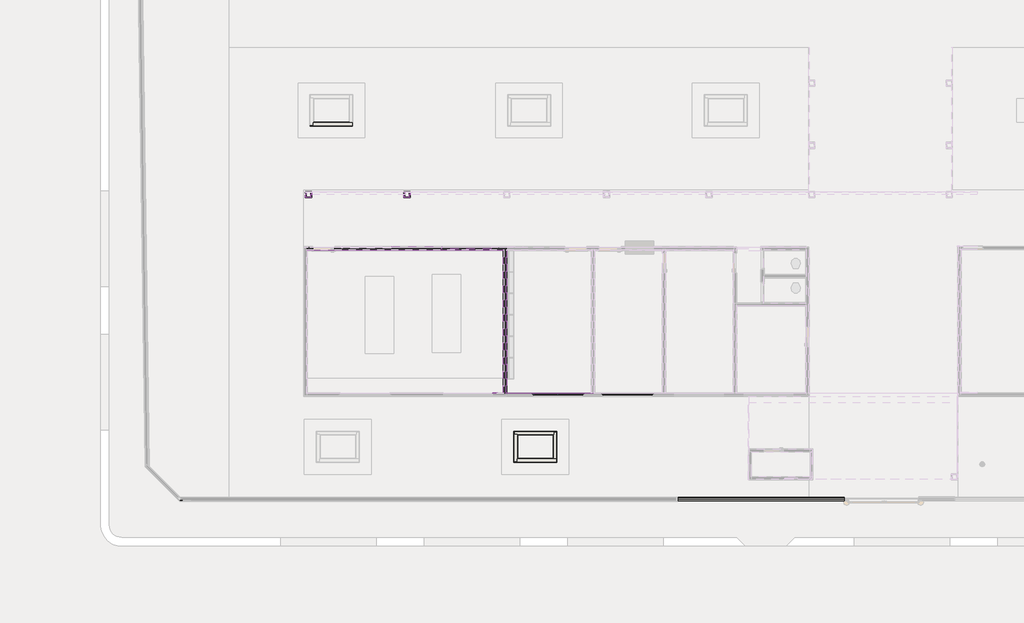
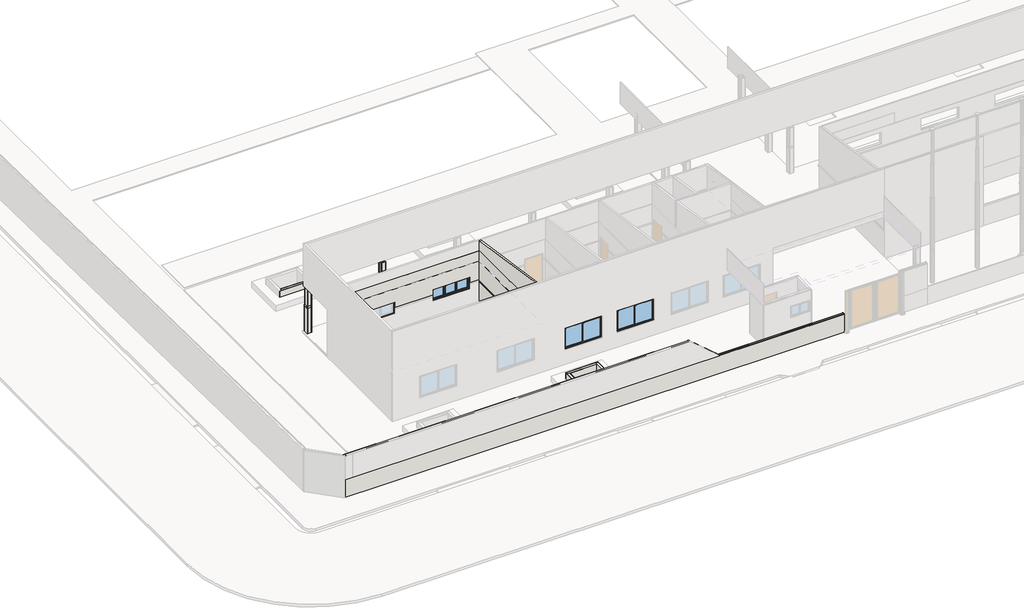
# One storey, part 2 of 28: 59 walls, 3 windows.
"""IFC4 building model written with IfcOpenShell, lengths in millimetres."""

from ifc_helpers import new_model, si_unit, frame, origin, origin_with_axes, place, context, project, spatial, polyline, outline, extrude, faceted_brep, transform, mapped, element, save
from components import window_2x1_20x1x10_9e9748dd, window_2x60x220_105bf606

model = new_model("IFC4")

# Units and contexts
model_context = context("Model", 3, world=origin())
ifc_project = project(units=[si_unit("LENGTHUNIT", "METRE", prefix="MILLI")], contexts=[model_context])

# Site, building, storey
site = spatial("IfcSite", under=ifc_project)
building = spatial("IfcBuilding", under=site)
storey = spatial("IfcBuildingStorey", under=building, Name="Térreo", Elevation=0.0)

# Walls
placement = place(None, origin())
element("IfcWall", 1, ObjectType="FDE_S712_AlvenariadeTijoloCerâmico/Baiano_Alvenaria_9cm - Existente", at=placement, inside=storey, context=model_context, shape_type="Brep", body=[
    faceted_brep([(-46653.4091269, 10541.3195082, 3500.0), (-46743.4091269, 10541.3195082, 3500.0), (-55003.4091269, 10541.3195082, 3500.0), (-55003.4091269, 10541.3195082, 1824.9435125), (-54972.4091269, 10541.3195082, 1824.9435125), (-54752.4091269, 10541.3195082, 1824.9435125), (-54752.4091269, 10541.3195082, 2112.0), (-53818.4091269, 10541.3195082, 2112.0), (-53818.4091269, 10541.3195082, 1824.9435125), (-53528.4091269, 10541.3195082, 1824.9435125), (-53528.4091269, 10541.3195082, 2135.0), (-51458.4091269, 10541.3195082, 2135.0), (-51458.4091269, 10541.3195082, 1824.9435125), (-49348.4091269, 10541.3195082, 1824.9435125), (-49348.4091269, 10541.3195082, 2135.0), (-47278.4091269, 10541.3195082, 2135.0), (-47278.4091269, 10541.3195082, 1824.9435125), (-46774.4091269, 10541.3195082, 1824.9435125), (-46653.4091269, 10541.3195082, 1824.9435125), (-54752.4091269, 10541.3195082, 220.0), (-55003.4091269, 10541.3195082, 220.0), (-55003.4091269, 10541.3195082, 0.0), (-54752.4091269, 10541.3195082, 0.0), (-46653.4091269, 10541.3195082, 220.0), (-53818.4091269, 10541.3195082, 220.0), (-53818.4091269, 10541.3195082, 0.0), (-46743.4091269, 10541.3195082, 0.0), (-46653.4091269, 10541.3195082, 0.0), (-55003.4091269, 10631.3195082, 3500.0), (-46653.4091269, 10631.3195082, 3500.0), (-46653.4091269, 10631.3195082, 0.0), (-53818.4091269, 10631.3195082, 0.0), (-53818.4091269, 10631.3195082, 2112.0), (-54752.4091269, 10631.3195082, 2112.0), (-54752.4091269, 10631.3195082, 0.0), (-55003.4091269, 10631.3195082, 0.0), (-55003.4091269, 10631.3195082, 1824.9435125), (-51458.4091269, 10631.3195082, 1465.0), (-51458.4091269, 10631.3195082, 2135.0), (-53528.4091269, 10631.3195082, 2135.0), (-53528.4091269, 10631.3195082, 1465.0), (-49348.4091269, 10631.3195082, 2135.0), (-49348.4091269, 10631.3195082, 1465.0), (-47278.4091269, 10631.3195082, 1465.0), (-47278.4091269, 10631.3195082, 2135.0), (-46653.4091269, 10547.3195082, 1824.9435125), (-46653.4091269, 10547.3195082, 220.0), (-54752.4091269, 10547.3195082, 1824.9435125), (-55003.4091269, 10547.3195082, 1824.9435125), (-55003.4091269, 10547.3195082, 1731.0528047), (-55003.4091269, 10547.3195082, 220.0), (-54752.4091269, 10547.3195082, 220.0), (-54752.4091269, 10547.3195082, 1731.0528047), (-53818.4091269, 10547.3195082, 1824.9435125), (-53818.4091269, 10547.3195082, 1731.0528047), (-53818.4091269, 10547.3195082, 220.0), (-47278.4091269, 10547.3195082, 1824.9435125), (-47278.4091269, 10547.3195082, 1731.0528047), (-47278.4091269, 10547.3195082, 1465.0), (-49348.4091269, 10547.3195082, 1465.0), (-49348.4091269, 10547.3195082, 1731.0528047), (-49348.4091269, 10547.3195082, 1824.9435125), (-51458.4091269, 10547.3195082, 1824.9435125), (-51458.4091269, 10547.3195082, 1731.0528047), (-51458.4091269, 10547.3195082, 1465.0), (-53528.4091269, 10547.3195082, 1465.0), (-53528.4091269, 10547.3195082, 1731.0528047), (-53528.4091269, 10547.3195082, 1824.9435125)], [[[0, 1, 2, 3, 4, 5, 6, 7, 8, 9, 10, 11, 12, 13, 14, 15, 16, 17, 18]], [[19, 20, 21, 22]], [[23, 24, 25, 26, 27]], [[28, 29, 30, 31, 32, 33, 34, 35, 36], [37, 38, 39, 40], [41, 42, 43, 44]], [[30, 27, 26, 25, 31]], [[22, 21, 35, 34]], [[2, 1, 0, 29, 28]], [[27, 30, 29, 0, 18, 45, 46, 23]], [[47, 48, 49, 50, 51, 52]], [[53, 54, 55, 46, 45, 56, 57, 58, 59, 60, 61, 62, 63, 64, 65, 66, 67]], [[20, 19, 51, 50]], [[24, 23, 46, 55]], [[9, 8, 53, 67]], [[13, 12, 62, 61]], [[18, 17, 16, 56, 45]], [[48, 47, 5, 4, 3]], [[33, 6, 5, 47, 52, 51, 19, 22, 34]], [[6, 33, 32, 7]], [[7, 32, 31, 25, 24, 55, 54, 53, 8]], [[11, 38, 37, 64, 63, 62, 12]], [[38, 11, 10, 39]], [[39, 10, 9, 67, 66, 65, 40]], [[37, 40, 65, 64]], [[41, 14, 13, 61, 60, 59, 42]], [[14, 41, 44, 15]], [[15, 44, 43, 58, 57, 56, 16]], [[43, 42, 59, 58]], [[35, 21, 20, 50, 49, 48, 3, 2, 28, 36]]]),
])
element("IfcWall", 2, ObjectType="FDE_S712_AlvenariadeTijoloCerâmico/Baiano_Alvenaria_9cm - Existente", at=placement, inside=storey, context=model_context, shape_type="Brep", body=[
    faceted_brep([(-46743.4091269, 10541.3195082, 0.0), (-46743.4091269, 4520.0, 0.0), (-46743.4091269, 4520.0, 3500.0), (-46743.4091269, 10541.3195082, 3500.0), (-46653.4091269, 10541.3195082, 0.0), (-46653.4091269, 10541.3195082, 220.0), (-46653.4091269, 10541.3195082, 1824.9435125), (-46653.4091269, 10541.3195082, 3500.0), (-46653.4091269, 4520.0, 3500.0), (-46653.4091269, 4520.0, 0.0)], [[[0, 1, 2, 3]], [[4, 5, 6, 7, 8, 9]], [[1, 0, 4, 9]], [[3, 2, 8, 7]], [[0, 3, 7, 6, 5, 4]], [[2, 1, 9, 8]]]),
])
element("IfcWall", 3, ObjectType="FDE_S712_AlvenariadeTijoloCerâmico/Baiano_Alvenaria_9cm - Existente", at=placement, inside=storey, context=model_context, shape_type="Brep", body=[
    faceted_brep([(-60301.051397, 152.3387091, 0.0), (-60301.051397, 152.3387091, 2545.9092161), (-41063.9536177, 152.3387091, 2545.9092161), (-39448.4091269, 152.3387091, 1156.7860555), (-32483.7640582, 152.3387091, 1156.7860555), (-32483.7640582, 152.3387091, 0.0), (-60211.051397, 62.3387091, 2545.9092161), (-60211.051397, 62.3387091, 1156.7860555), (-60211.051397, 62.3387091, 0.0), (-32483.7640582, 62.3387091, 0.0), (-32483.7640582, 62.3387091, 1156.7860555), (-39448.4091269, 62.3387091, 1156.7860555), (-41063.9536177, 62.3387091, 2545.9092161)], [[[0, 1, 2, 3, 4, 5]], [[6, 7, 8, 9, 10, 11, 12]], [[0, 5, 9, 8]], [[2, 1, 6, 12]], [[3, 2, 12, 11]], [[4, 3, 11, 10]], [[5, 4, 10, 9]], [[0, 8, 7, 6, 1]]]),
])
element("IfcWall", 4, ObjectType="FDE_S712_AlvenariadeTijoloCerâmico/Baiano_Alvenaria_9cm - Existente", at=placement, inside=storey, context=model_context, shape_type="Brep", body=[
    faceted_brep([(-46743.4091269, 10541.3195082, 0.0), (-46743.4091269, 4520.0, 0.0), (-46743.4091269, 4520.0, 220.0), (-46743.4091269, 4520.0, 1731.0528047), (-46743.4091269, 4520.0, 1824.9435125), (-46743.4091269, 4520.0, 3500.0), (-46743.4091269, 4520.0, 5000.0), (-46743.4091269, 4520.0, 5007.5), (-46743.4091269, 10541.3195082, 4104.3020738), (-46653.4091269, 10541.3195082, 0.0), (-46653.4091269, 10541.3195082, 4104.3020738), (-46653.4091269, 4520.0000015, 5007.4999998), (-46653.4091269, 4520.0, 0.0)], [[[0, 1, 2, 3, 4, 5, 6, 7, 8]], [[9, 10, 11, 12]], [[1, 0, 9, 12]], [[7, 6, 5, 4, 3, 2, 1, 12, 11]], [[0, 8, 10, 9]], [[8, 7, 11, 10]]]),
])
element("IfcWall", 5, ObjectType="Faixa - Revestimento Cerâmico Verde Folha 10x10cm", at=placement, inside=storey, context=model_context, shape_type="Brep", body=[
    faceted_brep([(-55093.4091269, 10637.3195082, 1824.9435125), (-55093.4091269, 10637.3195082, 1731.0528047), (-54752.4091269, 10637.3195082, 1731.0528047), (-54752.4091269, 10637.3195082, 1824.9435125), (-55003.4091269, 10637.3195082, 1824.9435125), (-55093.4091269, 10667.3195082, 1731.0528047), (-55093.4091269, 10667.3195082, 1824.9435125), (-54752.4091269, 10667.3195082, 1824.9435125), (-54752.4091269, 10667.3195082, 1731.0528047), (-55093.4091269, 10652.3195082, 1824.9435125), (-54752.4091269, 10652.3195082, 1824.9435125)], [[[0, 1, 2, 3, 4]], [[5, 6, 7, 8]], [[1, 5, 8, 2]], [[6, 9, 0, 4, 3, 10, 7]], [[1, 0, 9, 6, 5]], [[3, 2, 8, 7, 10]]]),
    faceted_brep([(-51458.4091269, 10637.3195082, 1824.9435125), (-51458.4091269, 10637.3195082, 1731.0528047), (-49348.4091269, 10637.3195082, 1731.0528047), (-49348.4091269, 10637.3195082, 1824.9435125), (-51458.4091269, 10667.3195082, 1731.0528047), (-51458.4091269, 10667.3195082, 1824.9435125), (-49348.4091269, 10667.3195082, 1824.9435125), (-49348.4091269, 10667.3195082, 1731.0528047), (-51458.4091269, 10652.3195082, 1824.9435125), (-49348.4091269, 10652.3195082, 1824.9435125)], [[[0, 1, 2, 3]], [[4, 5, 6, 7]], [[1, 4, 7, 2]], [[5, 8, 0, 3, 9, 6]], [[1, 0, 8, 5, 4]], [[3, 2, 7, 6, 9]]]),
    faceted_brep([(-53528.4091269, 10637.3195082, 1731.0528047), (-53528.4091269, 10637.3195082, 1824.9435125), (-53818.4091269, 10637.3195082, 1824.9435125), (-53818.4091269, 10637.3195082, 1731.0528047), (-53528.4091269, 10667.3195082, 1824.9435125), (-53528.4091269, 10667.3195082, 1731.0528047), (-53818.4091269, 10667.3195082, 1731.0528047), (-53818.4091269, 10667.3195082, 1824.9435125), (-53528.4091269, 10652.3195082, 1824.9435125), (-53818.4091269, 10652.3195082, 1824.9435125)], [[[0, 1, 2, 3]], [[4, 5, 6, 7]], [[5, 0, 3, 6]], [[1, 8, 4, 7, 9, 2]], [[1, 0, 5, 4, 8]], [[3, 2, 9, 7, 6]]]),
])
element("IfcWall", 6, ObjectType="Pardes Externas_Pintura Acrílica Branco Neve", at=placement, inside=storey, context=model_context, shape_type="Brep", body=[
    faceted_brep([(-50919.4091269, 12950.0, 1794.0), (-50898.4091269, 12950.0, 1794.0), (-50698.4091269, 12950.0, 1794.0), (-50677.4091269, 12950.0, 1794.0), (-50677.4091269, 12950.0, 2900.0), (-50698.4091269, 12950.0, 2900.0), (-50898.4091269, 12950.0, 2900.0), (-50919.4091269, 12950.0, 2900.0), (-50919.4091269, 12971.0, 1794.0), (-50919.4091269, 12971.0, 2900.0), (-50677.4091269, 12971.0, 2900.0), (-50677.4091269, 12971.0, 1794.0)], [[[0, 1, 2, 3, 4, 5, 6, 7]], [[8, 9, 10, 11]], [[3, 2, 1, 0, 8, 11]], [[7, 6, 5, 4, 10, 9]], [[0, 7, 9, 8]], [[4, 3, 11, 10]]]),
])
element("IfcWall", 7, ObjectType="Revestimento Cerâmico 10x10cm", at=placement, inside=storey, context=model_context, shape_type="Brep", body=[
    faceted_brep([(-50928.4091269, 12950.0, 194.0), (-50898.4091269, 12950.0, 194.0), (-50698.4091269, 12950.0, 194.0), (-50668.4091269, 12950.0, 194.0), (-50668.4091269, 12950.0, 1694.0), (-50698.4091269, 12950.0, 1694.0), (-50898.4091269, 12950.0, 1694.0), (-50928.4091269, 12950.0, 1694.0), (-50928.4091269, 12980.0, 194.0), (-50928.4091269, 12980.0, 1694.0), (-50668.4091269, 12980.0, 1694.0), (-50668.4091269, 12980.0, 194.0)], [[[0, 1, 2, 3, 4, 5, 6, 7]], [[8, 9, 10, 11]], [[3, 2, 1, 0, 8, 11]], [[7, 6, 5, 4, 10, 9]], [[0, 7, 9, 8]], [[4, 3, 11, 10]]]),
])
element("IfcWall", 8, ObjectType="Revestimento Cerâmico 10x10cm", at=placement, inside=storey, context=model_context, shape_type="Brep", body=[
    faceted_brep([(-50898.4091269, 12720.0, 194.0), (-50898.4091269, 12750.0, 194.0), (-50898.4091269, 12950.0, 194.0), (-50898.4091269, 12950.0, 1694.0), (-50898.4091269, 12750.0, 1694.0), (-50898.4091269, 12720.0, 1694.0), (-50928.4091269, 12720.0, 194.0), (-50928.4091269, 12720.0, 1694.0), (-50928.4091269, 12950.0, 1694.0), (-50928.4091269, 12950.0, 194.0)], [[[0, 1, 2, 3, 4, 5]], [[6, 7, 8, 9]], [[2, 1, 0, 6, 9]], [[5, 4, 3, 8, 7]], [[3, 2, 9, 8]], [[0, 5, 7, 6]]]),
])
element("IfcWall", 9, ObjectType="Revestimento Cerâmico 10x10cm", at=placement, inside=storey, context=model_context, shape_type="Brep", body=[
    faceted_brep([(-50698.4091269, 12950.0, 194.0), (-50698.4091269, 12750.0, 194.0), (-50698.4091269, 12720.0, 194.0), (-50698.4091269, 12720.0, 1694.0), (-50698.4091269, 12750.0, 1694.0), (-50698.4091269, 12950.0, 1694.0), (-50668.4091269, 12950.0, 194.0), (-50668.4091269, 12950.0, 1694.0), (-50668.4091269, 12720.0, 1694.0), (-50668.4091269, 12720.0, 194.0)], [[[0, 1, 2, 3, 4, 5]], [[6, 7, 8, 9]], [[2, 1, 0, 6, 9]], [[5, 4, 3, 8, 7]], [[0, 5, 7, 6]], [[3, 2, 9, 8]]]),
])
element("IfcWall", 10, ObjectType="Revestimento Cerâmico 10x10cm", at=placement, inside=storey, context=model_context, shape_type="SweptSolid", body=[
    extrude(outline(polyline([(-50698.4091269, 12720.0), (-50898.4091269, 12720.0), (-50898.4091269, 12750.0), (-50698.4091269, 12750.0), (-50698.4091269, 12720.0)])), frame((0.0, 0.0, 194.0), z_axis=(0.0, 0.0, 1.0), x_axis=(1.0, 0.0, 0.0)), (0.0, 0.0, 1.0), 1500.0),
])
element("IfcWall", 11, ObjectType="Faixa - Revestimento Cerâmico Verde Folha 10x10cm", at=placement, inside=storey, context=model_context, shape_type="Brep", body=[
    faceted_brep([(-50928.4091269, 12950.0, 1694.0), (-50898.4091269, 12950.0, 1694.0), (-50698.4091269, 12950.0, 1694.0), (-50668.4091269, 12950.0, 1694.0), (-50668.4091269, 12950.0, 1794.0), (-50698.4091269, 12950.0, 1794.0), (-50898.4091269, 12950.0, 1794.0), (-50928.4091269, 12950.0, 1794.0), (-50928.4091269, 12980.0, 1694.0), (-50928.4091269, 12980.0, 1794.0), (-50668.4091269, 12980.0, 1794.0), (-50668.4091269, 12980.0, 1694.0)], [[[0, 1, 2, 3, 4, 5, 6, 7]], [[8, 9, 10, 11]], [[3, 2, 1, 0, 8, 11]], [[7, 6, 5, 4, 10, 9]], [[4, 3, 11, 10]], [[0, 7, 9, 8]]]),
])
element("IfcWall", 12, ObjectType="Faixa - Revestimento Cerâmico Verde Folha 10x10cm", at=placement, inside=storey, context=model_context, shape_type="Brep", body=[
    faceted_brep([(-50698.4091269, 12950.0, 1694.0), (-50698.4091269, 12750.0, 1694.0), (-50698.4091269, 12720.0, 1694.0), (-50698.4091269, 12720.0, 1794.0), (-50698.4091269, 12750.0, 1794.0), (-50698.4091269, 12950.0, 1794.0), (-50668.4091269, 12950.0, 1694.0), (-50668.4091269, 12950.0, 1794.0), (-50668.4091269, 12720.0, 1794.0), (-50668.4091269, 12720.0, 1694.0)], [[[0, 1, 2, 3, 4, 5]], [[6, 7, 8, 9]], [[2, 1, 0, 6, 9]], [[5, 4, 3, 8, 7]], [[0, 5, 7, 6]], [[3, 2, 9, 8]]]),
])
element("IfcWall", 13, ObjectType="Faixa - Revestimento Cerâmico Verde Folha 10x10cm", at=placement, inside=storey, context=model_context, shape_type="Brep", body=[
    faceted_brep([(-50928.4091269, 12720.0, 1694.0), (-50698.4091269, 12720.0, 1694.0), (-50698.4091269, 12720.0, 1794.0), (-50928.4091269, 12720.0, 1794.0), (-50928.4091269, 12750.0, 1694.0), (-50928.4091269, 12750.0, 1794.0), (-50898.4091269, 12750.0, 1794.0), (-50698.4091269, 12750.0, 1794.0), (-50698.4091269, 12750.0, 1694.0), (-50898.4091269, 12750.0, 1694.0), (-50698.4091269, 12729.0, 1794.0)], [[[0, 1, 2, 3]], [[4, 5, 6, 7, 8, 9]], [[1, 0, 4, 9, 8]], [[3, 2, 10, 7, 6, 5]], [[2, 1, 8, 7, 10]], [[0, 3, 5, 4]]]),
])
element("IfcWall", 14, ObjectType="Faixa - Revestimento Cerâmico Verde Folha 10x10cm", at=placement, inside=storey, context=model_context, shape_type="SweptSolid", body=[
    extrude(outline(polyline([(-50928.4091269, 12750.0), (-50928.4091269, 12950.0), (-50898.4091269, 12950.0), (-50898.4091269, 12750.0), (-50928.4091269, 12750.0)])), frame((0.0, 0.0, 1694.0), z_axis=(0.0, 0.0, 1.0), x_axis=(1.0, 0.0, 0.0)), (0.0, 0.0, 1.0), 100.0),
])
element("IfcWall", 15, ObjectType="Pardes Externas_Pintura Acrílica Branco Neve", at=placement, inside=storey, context=model_context, shape_type="SweptSolid", body=[
    extrude(outline(polyline([(-50698.4091269, 12729.0), (-50898.4091269, 12729.0), (-50898.4091269, 12750.0), (-50698.4091269, 12750.0), (-50698.4091269, 12729.0)])), frame((0.0, 0.0, 1794.0), z_axis=(0.0, 0.0, 1.0), x_axis=(1.0, 0.0, 0.0)), (0.0, 0.0, 1.0), 1106.0),
])
element("IfcWall", 16, ObjectType="Pardes Externas_Pintura Acrílica Branco Neve", at=placement, inside=storey, context=model_context, shape_type="Brep", body=[
    faceted_brep([(-50698.4091269, 12950.0, 1794.0), (-50698.4091269, 12750.0, 1794.0), (-50698.4091269, 12729.0, 1794.0), (-50698.4091269, 12729.0, 2900.0), (-50698.4091269, 12750.0, 2900.0), (-50698.4091269, 12950.0, 2900.0), (-50677.4091269, 12950.0, 1794.0), (-50677.4091269, 12950.0, 2900.0), (-50677.4091269, 12729.0, 2900.0), (-50677.4091269, 12729.0, 1794.0)], [[[0, 1, 2, 3, 4, 5]], [[6, 7, 8, 9]], [[2, 1, 0, 6, 9]], [[5, 4, 3, 8, 7]], [[3, 2, 9, 8]], [[0, 5, 7, 6]]]),
])
element("IfcWall", 17, ObjectType="Pardes Externas_Pintura Acrílica Branco Neve", at=placement, inside=storey, context=model_context, shape_type="Brep", body=[
    faceted_brep([(-50919.4091269, 12950.0, 1794.0), (-50919.4091269, 12729.0, 1794.0), (-50919.4091269, 12729.0, 2900.0), (-50919.4091269, 12950.0, 2900.0), (-50898.4091269, 12950.0, 1794.0), (-50898.4091269, 12950.0, 2900.0), (-50898.4091269, 12750.0, 2900.0), (-50898.4091269, 12729.0, 2900.0), (-50898.4091269, 12729.0, 1794.0), (-50898.4091269, 12750.0, 1794.0)], [[[0, 1, 2, 3]], [[4, 5, 6, 7, 8, 9]], [[1, 0, 4, 9, 8]], [[3, 2, 7, 6, 5]], [[2, 1, 8, 7]], [[0, 3, 5, 4]]]),
])
element("IfcWall", 18, ObjectType="Pardes Externas_Pintura Acrílica Branco Neve", at=placement, inside=storey, context=model_context, shape_type="Brep", body=[
    faceted_brep([(-55044.4091269, 12950.0, 1794.0), (-55023.4091269, 12950.0, 1794.0), (-54823.4091269, 12950.0, 1794.0), (-54802.4091269, 12950.0, 1794.0), (-54802.4091269, 12950.0, 2900.0), (-54823.4091269, 12950.0, 2900.0), (-55023.4091269, 12950.0, 2900.0), (-55044.4091269, 12950.0, 2900.0), (-55044.4091269, 12971.0, 1794.0), (-55044.4091269, 12971.0, 2900.0), (-54802.4091269, 12971.0, 2900.0), (-54802.4091269, 12971.0, 1794.0)], [[[0, 1, 2, 3, 4, 5, 6, 7]], [[8, 9, 10, 11]], [[3, 2, 1, 0, 8, 11]], [[7, 6, 5, 4, 10, 9]], [[0, 7, 9, 8]], [[4, 3, 11, 10]]]),
])
element("IfcWall", 19, ObjectType="Revestimento Cerâmico 10x10cm", at=placement, inside=storey, context=model_context, shape_type="Brep", body=[
    faceted_brep([(-55053.4091269, 12950.0, 194.0), (-55023.4091269, 12950.0, 194.0), (-54823.4091269, 12950.0, 194.0), (-54793.4091269, 12950.0, 194.0), (-54793.4091269, 12950.0, 1694.0), (-54823.4091269, 12950.0, 1694.0), (-55023.4091269, 12950.0, 1694.0), (-55053.4091269, 12950.0, 1694.0), (-55053.4091269, 12980.0, 194.0), (-55053.4091269, 12980.0, 1694.0), (-54793.4091269, 12980.0, 1694.0), (-54793.4091269, 12980.0, 194.0)], [[[0, 1, 2, 3, 4, 5, 6, 7]], [[8, 9, 10, 11]], [[3, 2, 1, 0, 8, 11]], [[7, 6, 5, 4, 10, 9]], [[0, 7, 9, 8]], [[4, 3, 11, 10]]]),
])
element("IfcWall", 20, ObjectType="Revestimento Cerâmico 10x10cm", at=placement, inside=storey, context=model_context, shape_type="Brep", body=[
    faceted_brep([(-55023.4091269, 12720.0, 194.0), (-55023.4091269, 12750.0, 194.0), (-55023.4091269, 12950.0, 194.0), (-55023.4091269, 12950.0, 1694.0), (-55023.4091269, 12750.0, 1694.0), (-55023.4091269, 12720.0, 1694.0), (-55053.4091269, 12720.0, 194.0), (-55053.4091269, 12720.0, 1694.0), (-55053.4091269, 12950.0, 1694.0), (-55053.4091269, 12950.0, 194.0)], [[[0, 1, 2, 3, 4, 5]], [[6, 7, 8, 9]], [[2, 1, 0, 6, 9]], [[5, 4, 3, 8, 7]], [[3, 2, 9, 8]], [[0, 5, 7, 6]]]),
])
element("IfcWall", 21, ObjectType="Revestimento Cerâmico 10x10cm", at=placement, inside=storey, context=model_context, shape_type="Brep", body=[
    faceted_brep([(-54823.4091269, 12950.0, 194.0), (-54823.4091269, 12750.0, 194.0), (-54823.4091269, 12720.0, 194.0), (-54823.4091269, 12720.0, 1694.0), (-54823.4091269, 12750.0, 1694.0), (-54823.4091269, 12950.0, 1694.0), (-54793.4091269, 12950.0, 194.0), (-54793.4091269, 12950.0, 1694.0), (-54793.4091269, 12720.0, 1694.0), (-54793.4091269, 12720.0, 194.0)], [[[0, 1, 2, 3, 4, 5]], [[6, 7, 8, 9]], [[2, 1, 0, 6, 9]], [[5, 4, 3, 8, 7]], [[0, 5, 7, 6]], [[3, 2, 9, 8]]]),
])
element("IfcWall", 22, ObjectType="Revestimento Cerâmico 10x10cm", at=placement, inside=storey, context=model_context, shape_type="SweptSolid", body=[
    extrude(outline(polyline([(-54823.4091269, 12720.0), (-55023.4091269, 12720.0), (-55023.4091269, 12750.0), (-54823.4091269, 12750.0), (-54823.4091269, 12720.0)])), frame((0.0, 0.0, 194.0), z_axis=(0.0, 0.0, 1.0), x_axis=(1.0, 0.0, 0.0)), (0.0, 0.0, 1.0), 1500.0),
])
element("IfcWall", 23, ObjectType="Faixa - Revestimento Cerâmico Verde Folha 10x10cm", at=placement, inside=storey, context=model_context, shape_type="Brep", body=[
    faceted_brep([(-55053.4091269, 12950.0, 1694.0), (-55023.4091269, 12950.0, 1694.0), (-54823.4091269, 12950.0, 1694.0), (-54793.4091269, 12950.0, 1694.0), (-54793.4091269, 12950.0, 1794.0), (-54823.4091269, 12950.0, 1794.0), (-55023.4091269, 12950.0, 1794.0), (-55053.4091269, 12950.0, 1794.0), (-55053.4091269, 12980.0, 1694.0), (-55053.4091269, 12980.0, 1794.0), (-54793.4091269, 12980.0, 1794.0), (-54793.4091269, 12980.0, 1694.0)], [[[0, 1, 2, 3, 4, 5, 6, 7]], [[8, 9, 10, 11]], [[3, 2, 1, 0, 8, 11]], [[7, 6, 5, 4, 10, 9]], [[4, 3, 11, 10]], [[0, 7, 9, 8]]]),
])
element("IfcWall", 24, ObjectType="Faixa - Revestimento Cerâmico Verde Folha 10x10cm", at=placement, inside=storey, context=model_context, shape_type="Brep", body=[
    faceted_brep([(-54823.4091269, 12950.0, 1694.0), (-54823.4091269, 12750.0, 1694.0), (-54823.4091269, 12720.0, 1694.0), (-54823.4091269, 12720.0, 1794.0), (-54823.4091269, 12750.0, 1794.0), (-54823.4091269, 12950.0, 1794.0), (-54793.4091269, 12950.0, 1694.0), (-54793.4091269, 12950.0, 1794.0), (-54793.4091269, 12720.0, 1794.0), (-54793.4091269, 12720.0, 1694.0)], [[[0, 1, 2, 3, 4, 5]], [[6, 7, 8, 9]], [[2, 1, 0, 6, 9]], [[5, 4, 3, 8, 7]], [[0, 5, 7, 6]], [[3, 2, 9, 8]]]),
])
element("IfcWall", 25, ObjectType="Faixa - Revestimento Cerâmico Verde Folha 10x10cm", at=placement, inside=storey, context=model_context, shape_type="Brep", body=[
    faceted_brep([(-55053.4091269, 12720.0, 1694.0), (-54823.4091269, 12720.0, 1694.0), (-54823.4091269, 12720.0, 1794.0), (-55053.4091269, 12720.0, 1794.0), (-55053.4091269, 12750.0, 1694.0), (-55053.4091269, 12750.0, 1794.0), (-55023.4091269, 12750.0, 1794.0), (-54823.4091269, 12750.0, 1794.0), (-54823.4091269, 12750.0, 1694.0), (-55023.4091269, 12750.0, 1694.0), (-54823.4091269, 12729.0, 1794.0)], [[[0, 1, 2, 3]], [[4, 5, 6, 7, 8, 9]], [[1, 0, 4, 9, 8]], [[3, 2, 10, 7, 6, 5]], [[2, 1, 8, 7, 10]], [[0, 3, 5, 4]]]),
])
element("IfcWall", 26, ObjectType="Faixa - Revestimento Cerâmico Verde Folha 10x10cm", at=placement, inside=storey, context=model_context, shape_type="SweptSolid", body=[
    extrude(outline(polyline([(-55053.4091269, 12750.0), (-55053.4091269, 12950.0), (-55023.4091269, 12950.0), (-55023.4091269, 12750.0), (-55053.4091269, 12750.0)])), frame((0.0, 0.0, 1694.0), z_axis=(0.0, 0.0, 1.0), x_axis=(1.0, 0.0, 0.0)), (0.0, 0.0, 1.0), 100.0),
])
element("IfcWall", 27, ObjectType="Pardes Externas_Pintura Acrílica Branco Neve", at=placement, inside=storey, context=model_context, shape_type="SweptSolid", body=[
    extrude(outline(polyline([(-54823.4091269, 12729.0), (-55023.4091269, 12729.0), (-55023.4091269, 12750.0), (-54823.4091269, 12750.0), (-54823.4091269, 12729.0)])), frame((0.0, 0.0, 1794.0), z_axis=(0.0, 0.0, 1.0), x_axis=(1.0, 0.0, 0.0)), (0.0, 0.0, 1.0), 1106.0),
])
element("IfcWall", 28, ObjectType="Pardes Externas_Pintura Acrílica Branco Neve", at=placement, inside=storey, context=model_context, shape_type="Brep", body=[
    faceted_brep([(-54823.4091269, 12950.0, 1794.0), (-54823.4091269, 12750.0, 1794.0), (-54823.4091269, 12729.0, 1794.0), (-54823.4091269, 12729.0, 2900.0), (-54823.4091269, 12750.0, 2900.0), (-54823.4091269, 12950.0, 2900.0), (-54802.4091269, 12950.0, 1794.0), (-54802.4091269, 12950.0, 2900.0), (-54802.4091269, 12729.0, 2900.0), (-54802.4091269, 12729.0, 1794.0)], [[[0, 1, 2, 3, 4, 5]], [[6, 7, 8, 9]], [[2, 1, 0, 6, 9]], [[5, 4, 3, 8, 7]], [[3, 2, 9, 8]], [[0, 5, 7, 6]]]),
])
element("IfcWall", 29, ObjectType="Pardes Externas_Pintura Acrílica Branco Neve", at=placement, inside=storey, context=model_context, shape_type="Brep", body=[
    faceted_brep([(-55044.4091269, 12950.0, 1794.0), (-55044.4091269, 12729.0, 1794.0), (-55044.4091269, 12729.0, 2900.0), (-55044.4091269, 12950.0, 2900.0), (-55023.4091269, 12950.0, 1794.0), (-55023.4091269, 12950.0, 2900.0), (-55023.4091269, 12750.0, 2900.0), (-55023.4091269, 12729.0, 2900.0), (-55023.4091269, 12729.0, 1794.0), (-55023.4091269, 12750.0, 1794.0)], [[[0, 1, 2, 3]], [[4, 5, 6, 7, 8, 9]], [[1, 0, 4, 9, 8]], [[3, 2, 7, 6, 5]], [[2, 1, 8, 7]], [[0, 3, 5, 4]]]),
])
element("IfcWall", 30, ObjectType="Pardes Internas_Pintura Acrílica Branco Neve 2", at=placement, inside=storey, context=model_context, shape_type="Brep", body=[
    faceted_brep([(-46743.4091269, 4520.0, 1824.9435125), (-46743.4091269, 10547.3195082, 1824.9435125), (-46743.4091269, 10547.3195082, 2900.0), (-46743.4091269, 4520.0, 2900.0), (-46774.4091269, 4520.0, 1824.9435125), (-46774.4091269, 4520.0, 2900.0), (-46774.4091269, 4551.0, 2900.0), (-46774.4091269, 10516.3195082, 2900.0), (-46774.4091269, 10541.3195082, 2900.0), (-46774.4091269, 10547.3195082, 2900.0), (-46774.4091269, 10547.3195082, 1824.9435125), (-46774.4091269, 10541.3195082, 1824.9435125), (-46774.4091269, 10516.3195082, 1824.9435125), (-46774.4091269, 4551.0, 1824.9435125)], [[[0, 1, 2, 3]], [[4, 5, 6, 7, 8, 9, 10, 11, 12, 13]], [[1, 0, 4, 13, 12, 11, 10]], [[3, 2, 9, 8, 7, 6, 5]], [[0, 3, 5, 4]], [[2, 1, 10, 9]]]),
])
element("IfcWall", 31, ObjectType="Pardes Internas_Pintura Acrílica Branco Neve 2", at=placement, inside=storey, context=model_context, shape_type="Brep", body=[
    faceted_brep([(-43053.4091269, 4520.0, 2900.0), (-46653.4091269, 4520.0, 2900.0), (-46653.4091269, 4520.0, 1824.9435125), (-45508.4091269, 4520.0, 1824.9435125), (-45508.4091269, 4520.0, 2235.0), (-43438.4091269, 4520.0, 2235.0), (-43438.4091269, 4520.0, 1824.9435125), (-43053.4091269, 4520.0, 1824.9435125), (-46653.4091269, 4551.0, 2900.0), (-46622.4091269, 4551.0, 2900.0), (-43084.4091269, 4551.0, 2900.0), (-43053.4091269, 4551.0, 2900.0), (-43053.4091269, 4551.0, 1824.9435125), (-43084.4091269, 4551.0, 1824.9435125), (-43438.4091269, 4551.0, 1824.9435125), (-43438.4091269, 4551.0, 2235.0), (-45508.4091269, 4551.0, 2235.0), (-45508.4091269, 4551.0, 1824.9435125), (-46622.4091269, 4551.0, 1824.9435125), (-46653.4091269, 4551.0, 1824.9435125), (-45508.4091269, 4550.0000005, 1824.9435125), (-43438.4091269, 4550.0000005, 1824.9435125)], [[[0, 1, 2, 3, 4, 5, 6, 7]], [[8, 9, 10, 11, 12, 13, 14, 15, 16, 17, 18, 19]], [[2, 19, 18, 17, 20, 3]], [[12, 7, 6, 21, 14, 13]], [[1, 0, 11, 10, 9, 8]], [[2, 1, 8, 19]], [[0, 7, 12, 11]], [[5, 15, 14, 21, 6]], [[15, 5, 4, 16]], [[16, 4, 3, 20, 17]]]),
])
element("IfcWall", 32, ObjectType="Pardes Internas_Pintura Acrílica Branco Neve 2", at=placement, inside=storey, context=model_context, shape_type="SweptSolid", body=[
    extrude(outline(polyline([(2900.0, -46774.4091269), (2900.0, -54972.4091269), (1824.9435125, -54972.4091269), (1824.9435125, -54752.4091269), (2112.0, -54752.4091269), (2112.0, -53818.4091269), (1824.9435125, -53818.4091269), (1824.9435125, -53528.4091269), (2135.0, -53528.4091269), (2135.0, -51458.4091269), (1824.9435125, -51458.4091269), (1824.9435125, -49348.4091269), (2135.0, -49348.4091269), (2135.0, -47278.4091269), (1824.9435125, -47278.4091269), (1824.9435125, -46774.4091269), (2900.0, -46774.4091269)])), frame((0.0, 10516.3195082, 0.0), z_axis=(0.0, 1.0, 0.0), x_axis=(0.0, 0.0, 1.0)), (0.0, 0.0, 1.0), 25.0),
])
element("IfcWall", 33, ObjectType="Pardes Internas_Pintura Acrílica Branco Neve 2", at=placement, inside=storey, context=model_context, shape_type="Brep", body=[
    faceted_brep([(-46653.4091269, 10547.3195082, 1824.9435125), (-46653.4091269, 4551.0, 1824.9435125), (-46653.4091269, 4551.0, 2900.0), (-46653.4091269, 10547.3195082, 2900.0), (-46622.4091269, 10547.3195082, 1824.9435125), (-46622.4091269, 10547.3195082, 2900.0), (-46622.4091269, 10516.3195082, 2900.0), (-46622.4091269, 4551.0, 2900.0), (-46622.4091269, 4551.0, 1824.9435125), (-46622.4091269, 10516.3195082, 1824.9435125)], [[[0, 1, 2, 3]], [[4, 5, 6, 7, 8, 9]], [[1, 0, 4, 9, 8]], [[3, 2, 7, 6, 5]], [[2, 1, 8, 7]], [[0, 3, 5, 4]]]),
])
element("IfcWall", 34, ObjectType="Revestimento Cerâmico 10x10cm", at=placement, inside=storey, context=model_context, shape_type="Brep", body=[
    faceted_brep([(-46653.4091269, 10547.3195082, 220.0), (-46653.4091269, 4520.0000005, 220.0), (-46653.4091269, 4520.0000005, 1731.0528047), (-46653.4091269, 10547.3195082, 1731.0528047), (-46623.4091269, 10547.3195082, 220.0), (-46623.4091269, 10547.3195082, 1731.0528047), (-46623.4091269, 4550.0000005, 1731.0528047), (-46623.4091269, 4520.0000005, 1731.0528047), (-46623.4091269, 4520.0000005, 220.0), (-46623.4091269, 4550.0000005, 220.0)], [[[0, 1, 2, 3]], [[4, 5, 6, 7, 8, 9]], [[1, 0, 4, 9, 8]], [[3, 2, 7, 6, 5]], [[2, 1, 8, 7]], [[0, 3, 5, 4]]]),
])
element("IfcWall", 35, ObjectType="Revestimento Cerâmico 10x10cm", at=placement, inside=storey, context=model_context, shape_type="SweptSolid", body=[
    extrude(outline(polyline([(-46743.4091269, 10541.3195082), (-46743.4091269, 4550.0000015), (-46773.4091269, 4550.0000015), (-46773.4091269, 10541.3195082), (-46743.4091269, 10541.3195082)])), frame((0.0, 0.0, 220.0), z_axis=(0.0, 0.0, 1.0), x_axis=(1.0, 0.0, 0.0)), (0.0, 0.0, 1.0), 1511.0528047),
])
element("IfcWall", 36, ObjectType="Faixa - Revestimento Cerâmico Verde Folha 10x10cm", at=placement, inside=storey, context=model_context, shape_type="SweptSolid", body=[
    extrude(outline(polyline([(-46743.4091269, 10541.3195082), (-46743.4091269, 4560.0000015), (-46773.4091269, 4560.0000015), (-46773.4091269, 10541.3195082), (-46743.4091269, 10541.3195082)])), frame((0.0, 0.0, 1731.0528047), z_axis=(0.0, 0.0, 1.0), x_axis=(1.0, 0.0, 0.0)), (0.0, 0.0, 1.0), 93.8907079),
])
element("IfcWall", 37, ObjectType="Faixa - Revestimento Cerâmico Verde Folha 10x10cm", at=placement, inside=storey, context=model_context, shape_type="Brep", body=[
    faceted_brep([(-46653.4091269, 10547.3195082, 1731.0528047), (-46653.4091269, 4520.0000005, 1731.0528047), (-46653.4091269, 4520.0000005, 1824.9435125), (-46653.4091269, 10547.3195082, 1824.9435125), (-46623.4091269, 10547.3195082, 1731.0528047), (-46623.4091269, 10547.3195082, 1824.9435125), (-46623.4091269, 4550.0000005, 1824.9435125), (-46623.4091269, 4520.0000005, 1824.9435125), (-46623.4091269, 4520.0000005, 1731.0528047), (-46623.4091269, 4550.0000005, 1731.0528047)], [[[0, 1, 2, 3]], [[4, 5, 6, 7, 8, 9]], [[1, 0, 4, 9, 8]], [[3, 2, 7, 6, 5]], [[2, 1, 8, 7]], [[0, 3, 5, 4]]]),
])
element("IfcWall", 38, ObjectType="Faixa - Revestimento Cerâmico Verde Folha 10x10cm", at=placement, inside=storey, context=model_context, shape_type="Brep", body=[
    faceted_brep([(-47208.4091269, 4530.0000015, 1731.0528047), (-46743.4091269, 4530.0000015, 1731.0528047), (-46743.4091269, 4530.0000015, 1824.9435125), (-47208.4091269, 4530.0000015, 1824.9435125), (-47208.4091269, 4560.0000015, 1731.0528047), (-47208.4091269, 4560.0000015, 1824.9435125), (-46773.4091269, 4560.0000015, 1824.9435125), (-46743.4091269, 4560.0000015, 1824.9435125), (-46743.4091269, 4560.0000015, 1731.0528047), (-46773.4091269, 4560.0000015, 1731.0528047)], [[[0, 1, 2, 3]], [[4, 5, 6, 7, 8, 9]], [[1, 0, 4, 9, 8]], [[3, 2, 7, 6, 5]], [[0, 3, 5, 4]], [[2, 1, 8, 7]]]),
])
element("IfcWall", 39, ObjectType="Revestimento Cerâmico 10x10cm", at=placement, inside=storey, context=model_context, shape_type="SweptSolid", body=[
    extrude(outline(polyline([(-46743.4091269, 4520.0000015), (-47208.4091269, 4520.0000015), (-47208.4091269, 4550.0000015), (-46743.4091269, 4550.0000015), (-46743.4091269, 4520.0000015)])), frame((0.0, 0.0, 1731.0528047), z_axis=(0.0, 0.0, 1.0), x_axis=(1.0, 0.0, 0.0)), (0.0, 0.0, 1.0), 93.8907079),
])
element("IfcWall", 40, ObjectType="Faixa - Revestimento Cerâmico Verde Folha 10x10cm", at=placement, inside=storey, context=model_context, shape_type="SweptSolid", body=[
    extrude(outline(polyline([(-46623.4091269, 4520.0000005), (-46623.4091269, 4550.0000005), (-45508.4091269, 4550.0000005), (-45508.4091269, 4520.0000005), (-46623.4091269, 4520.0000005)])), frame((0.0, 0.0, 1731.0528047), z_axis=(0.0, 0.0, 1.0), x_axis=(1.0, 0.0, 0.0)), (0.0, 0.0, 1.0), 93.8907079),
])
element("IfcWall", 41, ObjectType="Faixa - Revestimento Cerâmico Verde Folha 10x10cm", at=placement, inside=storey, context=model_context, shape_type="Brep", body=[
    faceted_brep([(-42608.4091269, 4520.0000005, 1731.0528047), (-42608.4091269, 4520.0000005, 1824.9435125), (-43438.4091269, 4520.0000005, 1824.9435125), (-43438.4091269, 4520.0000005, 1731.0528047), (-42608.4091269, 4550.0000005, 1824.9435125), (-42608.4091269, 4550.0000005, 1731.0528047), (-42933.4091269, 4550.0000005, 1731.0528047), (-42963.4091269, 4550.0000005, 1731.0528047), (-43053.4091269, 4550.0000005, 1731.0528047), (-43083.4091269, 4550.0000005, 1731.0528047), (-43438.4091269, 4550.0000005, 1731.0528047), (-43438.4091269, 4550.0000005, 1824.9435125), (-43083.4091269, 4550.0000005, 1824.9435125), (-43053.4091269, 4550.0000005, 1824.9435125), (-42963.4091269, 4550.0000005, 1824.9435125), (-42933.4091269, 4550.0000005, 1824.9435125)], [[[0, 1, 2, 3]], [[4, 5, 6, 7, 8, 9, 10, 11, 12, 13, 14, 15]], [[5, 0, 3, 10, 9, 8, 7, 6]], [[1, 4, 15, 14, 13, 12, 11, 2]], [[1, 0, 5, 4]], [[3, 2, 11, 10]]]),
])
element("IfcWall", 42, ObjectType="FDE_S713_AlvenariadeTijoloLaminadoaVista_Alvenaria_1/2TijoloAlternado_11,5cm", at=placement, inside=storey, context=model_context, shape_type="Brep", body=[
    faceted_brep([(-54724.5140751, 15752.1451949, 0.0), (-53081.5140751, 15752.1451949, 0.0), (-53081.5140751, 15752.1451949, 800.0), (-54724.5140751, 15752.1451949, 800.0), (-54724.5140751, 15752.1451949, 100.0), (-54724.5140751, 15867.1451949, 0.0), (-54724.5140751, 15867.1451949, 800.0), (-53196.5140751, 15867.1451949, 800.0), (-53081.5140751, 15867.1451949, 800.0), (-53081.5140751, 15867.1451949, 100.0), (-53081.5140751, 15867.1451949, 0.0)], [[[0, 1, 2, 3, 4]], [[5, 6, 7, 8, 9, 10]], [[1, 0, 5, 10]], [[3, 2, 8, 7, 6]], [[2, 1, 10, 9, 8]], [[0, 4, 3, 6, 5]]]),
])
element("IfcWall", 43, ObjectType="Pardes Externas_Pintura Acrílica Branco Neve", at=placement, inside=storey, context=model_context, shape_type="SweptSolid", body=[
    extrude(outline(polyline([(-54839.5140751, 15752.1451949), (-53081.5140751, 15752.1451949), (-53081.5140751, 15731.1451949), (-54839.5140751, 15731.1451949), (-54839.5140751, 15752.1451949)])), frame((0.0, 0.0, 100.0), z_axis=(0.0, 0.0, 1.0), x_axis=(1.0, 0.0, 0.0)), (0.0, 0.0, 1.0), 700.0),
])
element("IfcWall", 44, ObjectType="Pardes Externas_Pintura Acrílica Branco Neve", at=placement, inside=storey, context=model_context, shape_type="SweptSolid", body=[
    extrude(outline(polyline([(-53217.5140751, 15867.1451949), (-54703.5140751, 15867.1451949), (-54703.5140751, 15888.1451949), (-53217.5140751, 15888.1451949), (-53217.5140751, 15867.1451949)])), origin_with_axes(), (0.0, 0.0, 1.0), 800.0),
])
element("IfcWall", 45, ObjectType="FDE_S713_AlvenariadeTijoloLaminadoaVista_Alvenaria_1/2TijoloAlternado_11,5cm", at=placement, inside=storey, context=model_context, shape_type="Brep", body=[
    faceted_brep([(-46301.3476065, 2801.7308554, 100.0), (-46301.3476065, 1658.7308554, 100.0), (-46301.3476065, 1658.7308554, 800.0), (-46301.3476065, 2801.7308554, 800.0), (-46301.3476065, 2801.7308554, 179.0468845), (-46186.3476065, 2801.7308554, 100.0), (-46186.3476065, 2801.7308554, 800.0), (-46186.3476065, 1773.7308554, 800.0), (-46186.3476065, 1658.7308554, 800.0), (-46186.3476065, 1658.7308554, 100.0)], [[[0, 1, 2, 3, 4]], [[5, 6, 7, 8, 9]], [[1, 0, 5, 9]], [[3, 2, 8, 7, 6]], [[2, 1, 9, 8]], [[0, 4, 3, 6, 5]]]),
])
element("IfcWall", 46, ObjectType="FDE_S713_AlvenariadeTijoloLaminadoaVista_Alvenaria_1/2TijoloAlternado_11,5cm", at=placement, inside=storey, context=model_context, shape_type="Brep", body=[
    faceted_brep([(-46186.3476065, 1658.7308554, 0.0), (-44543.3476065, 1658.7308554, 0.0), (-44543.3476065, 1658.7308554, 800.0), (-46186.3476065, 1658.7308554, 800.0), (-46186.3476065, 1658.7308554, 100.0), (-46186.3476065, 1773.7308554, 0.0), (-46186.3476065, 1773.7308554, 800.0), (-44658.3476065, 1773.7308554, 800.0), (-44543.3476065, 1773.7308554, 800.0), (-44543.3476065, 1773.7308554, 100.0), (-44543.3476065, 1773.7308554, 0.0)], [[[0, 1, 2, 3, 4]], [[5, 6, 7, 8, 9, 10]], [[1, 0, 5, 10]], [[3, 2, 8, 7, 6]], [[2, 1, 10, 9, 8]], [[0, 4, 3, 6, 5]]]),
])
element("IfcWall", 47, ObjectType="FDE_S713_AlvenariadeTijoloLaminadoaVista_Alvenaria_1/2TijoloAlternado_11,5cm", at=placement, inside=storey, context=model_context, shape_type="Brep", body=[
    faceted_brep([(-44543.3476065, 1773.7308554, 100.0), (-44543.3476065, 2916.7308554, 100.0), (-44543.3476065, 2916.7308554, 800.0), (-44543.3476065, 1773.7308554, 800.0), (-44658.3476065, 1773.7308554, 100.0), (-44658.3476065, 1773.7308554, 800.0), (-44658.3476065, 2801.7308554, 800.0), (-44658.3476065, 2916.7308554, 800.0), (-44658.3476065, 2916.7308554, 179.0468845), (-44658.3476065, 2916.7308554, 100.0)], [[[0, 1, 2, 3]], [[4, 5, 6, 7, 8, 9]], [[1, 0, 4, 9]], [[3, 2, 7, 6, 5]], [[2, 1, 9, 8, 7]], [[0, 3, 5, 4]]]),
])
element("IfcWall", 48, ObjectType="FDE_S713_AlvenariadeTijoloLaminadoaVista_Alvenaria_1/2TijoloAlternado_11,5cm", at=placement, inside=storey, context=model_context, shape_type="Brep", body=[
    faceted_brep([(-44658.3476065, 2916.7308554, 179.0468845), (-46301.3476065, 2916.7308554, 179.0468845), (-46301.3476065, 2916.7308554, 800.0), (-44658.3476065, 2916.7308554, 800.0), (-44658.3476065, 2801.7308554, 179.0468845), (-44658.3476065, 2801.7308554, 800.0), (-46186.3476065, 2801.7308554, 800.0), (-46301.3476065, 2801.7308554, 800.0), (-46301.3476065, 2801.7308554, 179.0468845)], [[[0, 1, 2, 3]], [[4, 5, 6, 7, 8]], [[1, 0, 4, 8]], [[3, 2, 7, 6, 5]], [[2, 1, 8, 7]], [[0, 3, 5, 4]]]),
])
element("IfcWall", 49, ObjectType="Pardes Externas_Pintura Acrílica Branco Neve", at=placement, inside=storey, context=model_context, shape_type="Brep", body=[
    faceted_brep([(-46322.3476065, 2916.7308554, 100.0), (-46301.3476065, 2916.7308554, 100.0), (-44543.3476065, 2916.7308554, 100.0), (-44522.3476065, 2916.7308554, 100.0), (-44522.3476065, 2916.7308554, 800.0), (-44543.3476065, 2916.7308554, 800.0), (-46301.3476065, 2916.7308554, 800.0), (-46322.3476065, 2916.7308554, 800.0), (-46322.3476065, 2937.7308554, 100.0), (-46322.3476065, 2937.7308554, 800.0), (-44522.3476065, 2937.7308554, 800.0), (-44522.3476065, 2937.7308554, 100.0)], [[[0, 1, 2, 3, 4, 5, 6, 7]], [[8, 9, 10, 11]], [[3, 2, 1, 0, 8, 11]], [[7, 6, 5, 4, 10, 9]], [[0, 7, 9, 8]], [[4, 3, 11, 10]]]),
])
element("IfcWall", 50, ObjectType="Pardes Externas_Pintura Acrílica Branco Neve", at=placement, inside=storey, context=model_context, shape_type="Brep", body=[
    faceted_brep([(-46301.3476065, 1637.7308554, 100.0), (-46301.3476065, 1658.7308554, 100.0), (-46301.3476065, 2916.7308554, 100.0), (-46301.3476065, 2916.7308554, 800.0), (-46301.3476065, 1658.7308554, 800.0), (-46301.3476065, 1637.7308554, 800.0), (-46322.3476065, 1637.7308554, 100.0), (-46322.3476065, 1637.7308554, 800.0), (-46322.3476065, 2916.7308554, 800.0), (-46322.3476065, 2916.7308554, 100.0)], [[[0, 1, 2, 3, 4, 5]], [[6, 7, 8, 9]], [[2, 1, 0, 6, 9]], [[5, 4, 3, 8, 7]], [[3, 2, 9, 8]], [[0, 5, 7, 6]]]),
])
element("IfcWall", 51, ObjectType="Pardes Externas_Pintura Acrílica Branco Neve", at=placement, inside=storey, context=model_context, shape_type="Brep", body=[
    faceted_brep([(-44543.3476065, 2916.7308554, 100.0), (-44543.3476065, 1658.7308554, 100.0), (-44543.3476065, 1637.7308554, 100.0), (-44543.3476065, 1637.7308554, 800.0), (-44543.3476065, 1658.7308554, 800.0), (-44543.3476065, 2916.7308554, 800.0), (-44522.3476065, 2916.7308554, 100.0), (-44522.3476065, 2916.7308554, 800.0), (-44522.3476065, 1637.7308554, 800.0), (-44522.3476065, 1637.7308554, 100.0)], [[[0, 1, 2, 3, 4, 5]], [[6, 7, 8, 9]], [[2, 1, 0, 6, 9]], [[5, 4, 3, 8, 7]], [[0, 5, 7, 6]], [[3, 2, 9, 8]]]),
])
element("IfcWall", 52, ObjectType="Pardes Externas_Pintura Acrílica Branco Neve", at=placement, inside=storey, context=model_context, shape_type="SweptSolid", body=[
    extrude(outline(polyline([(-46301.3476065, 1658.7308554), (-44543.3476065, 1658.7308554), (-44543.3476065, 1637.7308554), (-46301.3476065, 1637.7308554), (-46301.3476065, 1658.7308554)])), frame((0.0, 0.0, 100.0), z_axis=(0.0, 0.0, 1.0), x_axis=(1.0, 0.0, 0.0)), (0.0, 0.0, 1.0), 700.0),
])
element("IfcWall", 53, ObjectType="Pardes Externas_Pintura Acrílica Branco Neve", at=placement, inside=storey, context=model_context, shape_type="Brep", body=[
    faceted_brep([(-44658.3476065, 1773.7308554, 0.0), (-44658.3476065, 2801.7308554, 0.0), (-44658.3476065, 2801.7308554, 800.0), (-44658.3476065, 1773.7308554, 800.0), (-44679.3476065, 1773.7308554, 0.0), (-44679.3476065, 1773.7308554, 800.0), (-44679.3476065, 1794.7308554, 800.0), (-44679.3476065, 2780.7308554, 800.0), (-44679.3476065, 2801.7308554, 800.0), (-44679.3476065, 2801.7308554, 0.0), (-44679.3476065, 2780.7308554, 0.0), (-44679.3476065, 1794.7308554, 0.0)], [[[0, 1, 2, 3]], [[4, 5, 6, 7, 8, 9, 10, 11]], [[1, 0, 4, 11, 10, 9]], [[3, 2, 8, 7, 6, 5]], [[2, 1, 9, 8]], [[0, 3, 5, 4]]]),
])
element("IfcWall", 54, ObjectType="Pardes Externas_Pintura Acrílica Branco Neve", at=placement, inside=storey, context=model_context, shape_type="Brep", body=[
    faceted_brep([(-44679.3476065, 2801.7308554, 0.0), (-46186.3476065, 2801.7308554, 0.0), (-46186.3476065, 2801.7308554, 800.0), (-44679.3476065, 2801.7308554, 800.0), (-44679.3476065, 2780.7308554, 0.0), (-44679.3476065, 2780.7308554, 800.0), (-46165.3476065, 2780.7308554, 800.0), (-46186.3476065, 2780.7308554, 800.0), (-46186.3476065, 2780.7308554, 0.0), (-46165.3476065, 2780.7308554, 0.0)], [[[0, 1, 2, 3]], [[4, 5, 6, 7, 8, 9]], [[1, 0, 4, 9, 8]], [[3, 2, 7, 6, 5]], [[0, 3, 5, 4]], [[2, 1, 8, 7]]]),
])
element("IfcWall", 55, ObjectType="Pardes Externas_Pintura Acrílica Branco Neve", at=placement, inside=storey, context=model_context, shape_type="Brep", body=[
    faceted_brep([(-46186.3476065, 2780.7308554, 0.0), (-46186.3476065, 1773.7308554, 0.0), (-46186.3476065, 1773.7308554, 800.0), (-46186.3476065, 2780.7308554, 800.0), (-46165.3476065, 2780.7308554, 0.0), (-46165.3476065, 2780.7308554, 800.0), (-46165.3476065, 1794.7308554, 800.0), (-46165.3476065, 1773.7308554, 800.0), (-46165.3476065, 1773.7308554, 0.0), (-46165.3476065, 1794.7308554, 0.0)], [[[0, 1, 2, 3]], [[4, 5, 6, 7, 8, 9]], [[1, 0, 4, 9, 8]], [[3, 2, 7, 6, 5]], [[0, 3, 5, 4]], [[2, 1, 8, 7]]]),
])
element("IfcWall", 56, ObjectType="Pardes Externas_Pintura Acrílica Branco Neve", at=placement, inside=storey, context=model_context, shape_type="SweptSolid", body=[
    extrude(outline(polyline([(-44679.3476065, 1773.7308554), (-46165.3476065, 1773.7308554), (-46165.3476065, 1794.7308554), (-44679.3476065, 1794.7308554), (-44679.3476065, 1773.7308554)])), origin_with_axes(), (0.0, 0.0, 1.0), 800.0),
])
element("IfcWall", 57, ObjectType="Pardes Externas_Pintura Acrílica Branco Neve", at=placement, inside=storey, context=model_context, shape_type="Brep", body=[
    faceted_brep([(-60301.051397, 152.3387091, 0.0), (-32483.7640582, 152.3387091, 0.0), (-32483.7640582, 152.3387091, 1156.7860555), (-39448.4091269, 152.3387091, 1156.7860555), (-41063.9536177, 152.3387091, 2545.9092161), (-60301.051397, 152.3387091, 2545.9092161), (-60322.051397, 173.3387091, 0.0), (-60322.051397, 173.3387091, 2545.9092161), (-41063.9536177, 173.3387091, 2545.9092161), (-39448.4091269, 173.3387091, 1156.7860555), (-32483.7640582, 173.3387091, 1156.7860555), (-32483.7640582, 173.3387091, 0.0)], [[[0, 1, 2, 3, 4, 5]], [[6, 7, 8, 9, 10, 11]], [[1, 0, 6, 11]], [[5, 4, 8, 7]], [[2, 1, 11, 10]], [[3, 2, 10, 9]], [[4, 3, 9, 8]], [[0, 5, 7, 6]]]),
])
element("IfcWall", 58, ObjectType="Revestimento Cerâmico 10x10cm", at=placement, inside=storey, context=model_context, shape_type="Brep", body=[
    faceted_brep([(-48601.6116466, 9425.0000001, 220.0), (-48601.6116466, 9335.0000001, 220.0), (-48601.6116466, 9305.0000001, 220.0), (-48601.6116466, 9305.0000001, 1170.0), (-48601.6116466, 9335.0000001, 1170.0), (-48601.6116466, 9425.0000001, 1170.0), (-48571.6116466, 9425.0000001, 220.0), (-48571.6116466, 9425.0000001, 1170.0), (-48571.6116466, 9305.0000001, 1170.0), (-48571.6116466, 9305.0000001, 220.0)], [[[0, 1, 2, 3, 4, 5]], [[6, 7, 8, 9]], [[2, 1, 0, 6, 9]], [[5, 4, 3, 8, 7]], [[0, 5, 7, 6]], [[3, 2, 9, 8]]]),
])
element("IfcWall", 59, ObjectType="Faixa - Revestimento Cerâmico Verde Folha 10x10cm", at=placement, inside=storey, context=model_context, shape_type="SweptSolid", body=[
    extrude(outline(polyline([(-32483.7640582, 32.3387091), (-60306.051397, 32.3387091), (-60306.051397, 62.3387091), (-32483.7640582, 62.3387091), (-32483.7640582, 32.3387091)])), origin_with_axes(), (0.0, 0.0, 1.0), 1156.7860555),
])

# Windows
window_2x1_20x1x10_shape = window_2x1_20x1x10_9e9748dd(model_context)
element("IfcWindow", 60, ObjectType="JANELA COM ESQUADRIA DE CORRER - 2 FOLHAS : 2x1.20x1x10", at=placement, inside=storey, context=model_context, shape_type="MappedRepresentation", body=[
    mapped(window_2x1_20x1x10_shape, transform((-41444.005576, 4474.124161, 0.0), x_axis=(-1.0, 0.0, 0.0), y_axis=(0.0, -1.0, 0.0), z_axis=(0.0, 0.0, 1.0))),
])
element("IfcWindow", 61, ObjectType="JANELA COM ESQUADRIA DE CORRER - 2 FOLHAS : 2x1.20x1x10", at=placement, inside=storey, context=model_context, shape_type="MappedRepresentation", body=[
    mapped(window_2x1_20x1x10_shape, transform((-44344.005576, 4474.124161, 0.0), x_axis=(-1.0, 0.0, 0.0), y_axis=(0.0, -1.0, 0.0), z_axis=(0.0, 0.0, 1.0))),
])
window_2x60x220_shape = window_2x60x220_105bf606(model_context)
element("IfcWindow", 62, ObjectType="JANELA COM ESQUADRIA MAXIM-AR - 3 FOLHAS : 2x60x220", at=placement, inside=storey, context=model_context, shape_type="MappedRepresentation", body=[
    mapped(window_2x60x220_shape, transform((-48442.8126778, 10591.4436687, 0.0), x_axis=(1.0, 0.0, 0.0), y_axis=(0.0, 1.0, 0.0), z_axis=(0.0, 0.0, 1.0))),
])

save(model, "model.ifc")
